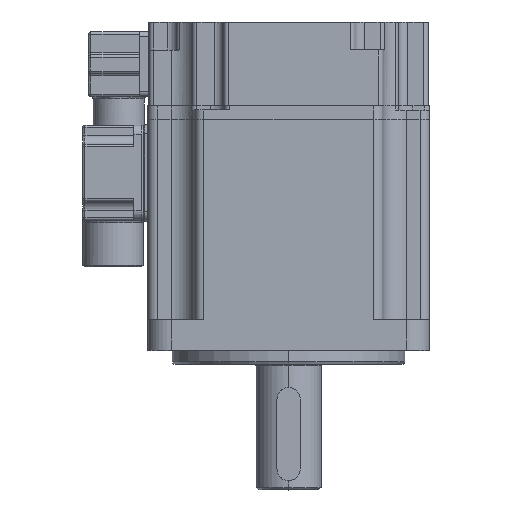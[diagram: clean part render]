
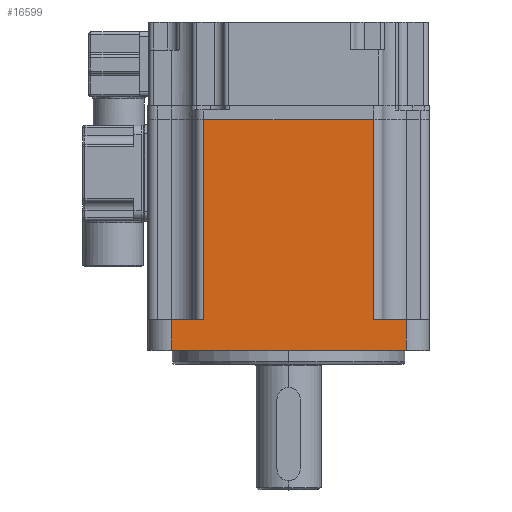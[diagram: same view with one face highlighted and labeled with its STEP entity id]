
A CAD part, top view. The second image highlights one B-rep face of the part: STEP entity #16599.
In plain terms, the highlighted planar face has unit normal (0, 0, 1).
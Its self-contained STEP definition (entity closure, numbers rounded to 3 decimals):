
#208 = EDGE_LOOP ( 'NONE', ( #25394, #21531, #11793, #27715, #4145, #18482, #20891, #23331 ) ) ;
#338 = EDGE_CURVE ( 'NONE', #22625, #9140, #28230, .T. ) ;
#694 = CARTESIAN_POINT ( 'NONE',  ( -25.25, 0., 30.25 ) ) ;
#1335 = CARTESIAN_POINT ( 'NONE',  ( 30.25, 49.5, 30.25 ) ) ;
#1843 = CARTESIAN_POINT ( 'NONE',  ( 18.25, 6.5, 30.25 ) ) ;
#2374 = VECTOR ( 'NONE', #29195, 1000. ) ;
#2488 = DIRECTION ( 'NONE',  ( 0., 1., 0. ) ) ;
#3169 = FACE_OUTER_BOUND ( 'NONE', #208, .T. ) ;
#3258 = LINE ( 'NONE', #16985, #16185 ) ;
#3424 = CARTESIAN_POINT ( 'NONE',  ( -18.25, 6.5, 30.25 ) ) ;
#3458 = CARTESIAN_POINT ( 'NONE',  ( 18.25, 49.5, 30.25 ) ) ;
#3972 = CARTESIAN_POINT ( 'NONE',  ( 18.25, 6.5, 30.25 ) ) ;
#4145 = ORIENTED_EDGE ( 'NONE', *, *, #338, .F. ) ;
#4783 = VERTEX_POINT ( 'NONE', #3458 ) ;
#5064 = LINE ( 'NONE', #18659, #12367 ) ;
#5407 = CARTESIAN_POINT ( 'NONE',  ( 30.25, 49.5, 30.25 ) ) ;
#6253 = VERTEX_POINT ( 'NONE', #28891 ) ;
#6658 = EDGE_CURVE ( 'NONE', #6253, #9140, #13347, .T. ) ;
#8224 = VERTEX_POINT ( 'NONE', #17381 ) ;
#9059 = EDGE_CURVE ( 'NONE', #8224, #24557, #12464, .T. ) ;
#9140 = VERTEX_POINT ( 'NONE', #9547 ) ;
#9468 = CARTESIAN_POINT ( 'NONE',  ( 30.25, 0., 30.25 ) ) ;
#9547 = CARTESIAN_POINT ( 'NONE',  ( 25.25, 6.5, 30.25 ) ) ;
#10566 = PLANE ( 'NONE',  #28876 ) ;
#10638 = VECTOR ( 'NONE', #22325, 1000. ) ;
#11372 = EDGE_CURVE ( 'NONE', #22625, #4783, #25566, .T. ) ;
#11793 = ORIENTED_EDGE ( 'NONE', *, *, #18371, .T. ) ;
#12367 = VECTOR ( 'NONE', #2488, 1000. ) ;
#12464 = LINE ( 'NONE', #27618, #13199 ) ;
#13199 = VECTOR ( 'NONE', #17127, 1000. ) ;
#13347 = LINE ( 'NONE', #26100, #2374 ) ;
#13690 = EDGE_CURVE ( 'NONE', #8224, #17578, #3258, .T. ) ;
#14342 = CARTESIAN_POINT ( 'NONE',  ( -18.25, 49.5, 30.25 ) ) ;
#15885 = DIRECTION ( 'NONE',  ( -1., 0., 0. ) ) ;
#16185 = VECTOR ( 'NONE', #22168, 1000. ) ;
#16599 = ADVANCED_FACE ( 'NONE', ( #3169 ), #10566, .F. ) ;
#16606 = EDGE_CURVE ( 'NONE', #24557, #28209, #5064, .T. ) ;
#16985 = CARTESIAN_POINT ( 'NONE',  ( -25.25, 49.5, 30.25 ) ) ;
#17127 = DIRECTION ( 'NONE',  ( 1., 0., 0. ) ) ;
#17205 = LINE ( 'NONE', #9468, #20435 ) ;
#17381 = CARTESIAN_POINT ( 'NONE',  ( -25.25, 6.5, 30.25 ) ) ;
#17396 = CARTESIAN_POINT ( 'NONE',  ( 0., 6.5, 30.25 ) ) ;
#17578 = VERTEX_POINT ( 'NONE', #694 ) ;
#18371 = EDGE_CURVE ( 'NONE', #17578, #6253, #17205, .T. ) ;
#18482 = ORIENTED_EDGE ( 'NONE', *, *, #11372, .T. ) ;
#18659 = CARTESIAN_POINT ( 'NONE',  ( -18.25, 6.5, 30.25 ) ) ;
#19995 = DIRECTION ( 'NONE',  ( 1., 0., 0. ) ) ;
#20084 = DIRECTION ( 'NONE',  ( 0., 1., 0. ) ) ;
#20435 = VECTOR ( 'NONE', #23068, 1000. ) ;
#20891 = ORIENTED_EDGE ( 'NONE', *, *, #23553, .F. ) ;
#21531 = ORIENTED_EDGE ( 'NONE', *, *, #13690, .T. ) ;
#21546 = VECTOR ( 'NONE', #19995, 1000. ) ;
#22168 = DIRECTION ( 'NONE',  ( 0., -1., 0. ) ) ;
#22325 = DIRECTION ( 'NONE',  ( 1., 0., 0. ) ) ;
#22625 = VERTEX_POINT ( 'NONE', #3972 ) ;
#23068 = DIRECTION ( 'NONE',  ( 1., 0., 0. ) ) ;
#23331 = ORIENTED_EDGE ( 'NONE', *, *, #16606, .F. ) ;
#23553 = EDGE_CURVE ( 'NONE', #28209, #4783, #32457, .T. ) ;
#24557 = VERTEX_POINT ( 'NONE', #3424 ) ;
#25394 = ORIENTED_EDGE ( 'NONE', *, *, #9059, .F. ) ;
#25566 = LINE ( 'NONE', #1843, #31984 ) ;
#26100 = CARTESIAN_POINT ( 'NONE',  ( 25.25, 49.5, 30.25 ) ) ;
#27618 = CARTESIAN_POINT ( 'NONE',  ( 0., 6.5, 30.25 ) ) ;
#27715 = ORIENTED_EDGE ( 'NONE', *, *, #6658, .T. ) ;
#28209 = VERTEX_POINT ( 'NONE', #14342 ) ;
#28230 = LINE ( 'NONE', #17396, #21546 ) ;
#28876 = AXIS2_PLACEMENT_3D ( 'NONE', #5407, #31218, #15885 ) ;
#28891 = CARTESIAN_POINT ( 'NONE',  ( 25.25, 0., 30.25 ) ) ;
#29195 = DIRECTION ( 'NONE',  ( 0., 1., 0. ) ) ;
#31218 = DIRECTION ( 'NONE',  ( 0., 0., -1. ) ) ;
#31984 = VECTOR ( 'NONE', #20084, 1000. ) ;
#32457 = LINE ( 'NONE', #1335, #10638 ) ;
